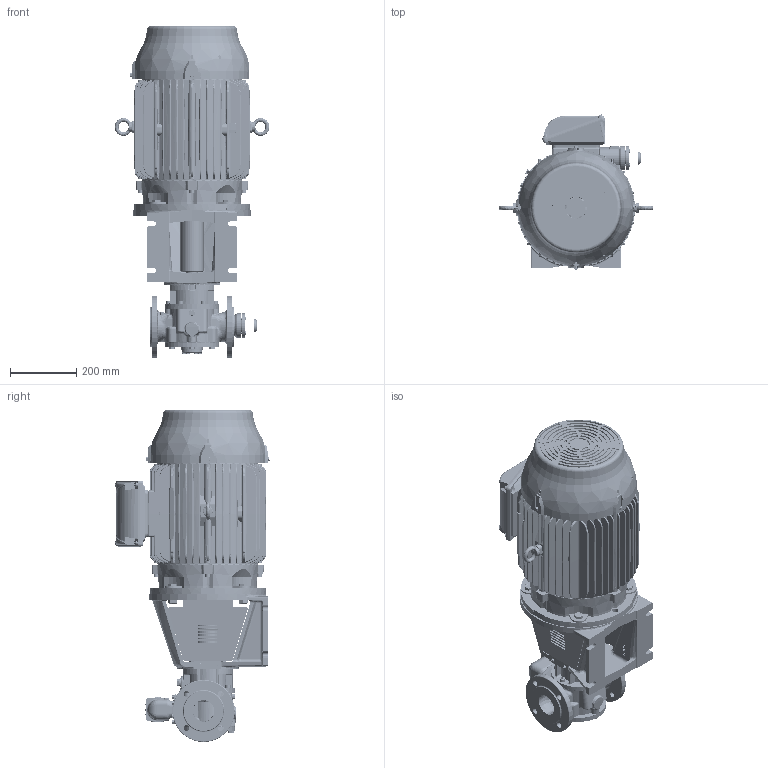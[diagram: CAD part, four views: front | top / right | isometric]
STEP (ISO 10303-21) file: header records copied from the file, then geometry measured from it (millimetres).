
FILE_DESCRIPTION(/* description */ (''),/* implementation_level */ '2;1');
FILE_NAME(/* name */ 'C:\V\JPP\Designs\GEAR PUMPS\PRODUCT ENGINEERING\EUROPE\TG BLOC\TG BLOC_23-65_R5_O_RV1-_180M-STEP.stp',/* time_stamp */ '2021-03-18T15:46:07+01:00',/* author */ ('A77THR'),/* organization */ (''),/* preprocessor_version */ 'ST-DEVELOPER v18.1',/* originating_system */ 'Autodesk Inventor 2020',/* authorisation */ '');
FILE_SCHEMA (('AUTOMOTIVE_DESIGN { 1 0 10303 214 3 1 1 }'));
Length unit declared in the file: millimetre
Products named in the file (1): TG BLOC_23-65_R5_O_RV1-_180M
Bounding box: 466 x 466.9 x 999.6 mm (x, y, z)
Volume: 55480236 mm3; surface area: 2597371 mm2
Topology: 4 solids, 4 shells, 5877 faces, 14966 edges, 9226 vertices
Faces by surface type: plane 1958, bspline 1801, cylinder 1333, cone 520, torus 201, sphere 64
Full cylindrical faces by diameter (mm): 4 x1, 4.5 x8, 4.917 x8, 5 x2, 5.459 x22, 6 x22, 6.647 x1, 7 x26, 8 x3, 8.376 x5, 8.5 x2, 8.7 x22, 9.188 x4, 10 x12, 10.5 x1, 11.445 x2, 11.5 x4, 11.6 x3, 12 x3, 15.011 x3, 15.4 x10, 16 x11, 17.9 x3, 18 x11, 19 x7, 21.939 x1, 22 x4, 25.9 x1, 26 x1, 29.4 x1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
Entity records: 282683 total; most frequent: CARTESIAN_POINT 147864, ORIENTED_EDGE 29644, DIRECTION 23875, EDGE_CURVE 14822, AXIS2_PLACEMENT_3D 9495, VERTEX_POINT 9232, EDGE_LOOP 6280, FACE_OUTER_BOUND 5877
